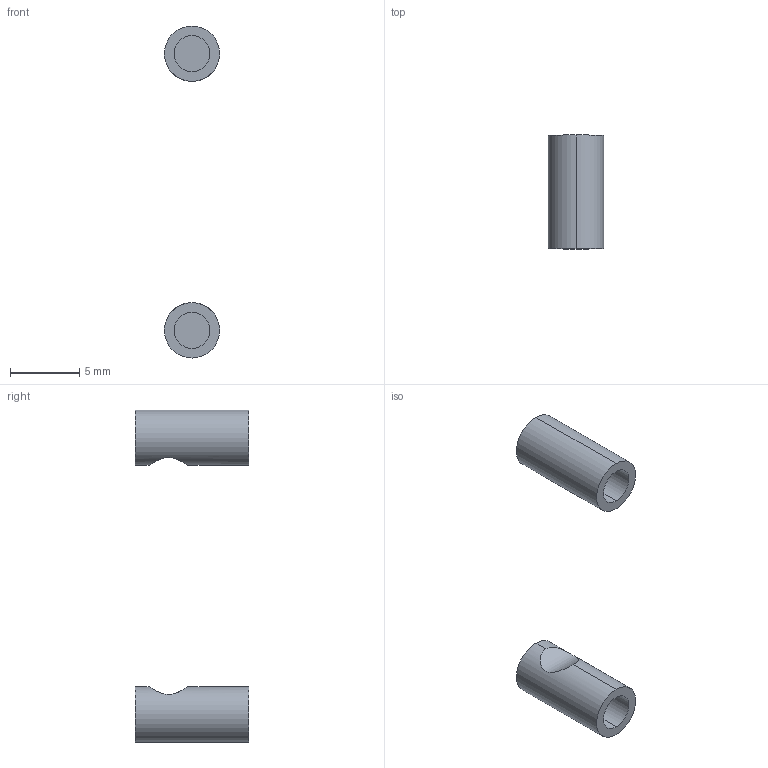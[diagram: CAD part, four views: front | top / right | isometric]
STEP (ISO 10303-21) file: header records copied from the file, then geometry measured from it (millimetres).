
FILE_DESCRIPTION (( 'STEP AP203' ), '1' );
FILE_NAME ('FX-SV1.STEP', '2005-09-05T06:47:31', ( '' ), ( '' ), 'SwSTEP 2.0', 'SolidWorks 2004073', '' );
FILE_SCHEMA (( 'CONFIG_CONTROL_DESIGN' ));
Length unit declared in the file: millimetre
Products named in the file (3): FX-SV1; FX-SV1P_蹬怮椔; FX-SV1D_蹬怮椔
Assembly tree (2 placements, depth 2):
  FX-SV1
    FX-SV1D_蹬怮椔
    FX-SV1P_蹬怮椔
Bounding box: 4 x 8.2 x 24 mm (x, y, z)
Volume: 167.5 mm3; surface area: 310.3 mm2
Topology: 2 solids, 2 shells, 16 faces, 30 edges, 20 vertices
Faces by surface type: cylinder 8, plane 6, bspline 2
Entity records: 927 total; most frequent: CARTESIAN_POINT 297, DIRECTION 80, ORIENTED_EDGE 60, AXIS2_PLACEMENT_3D 35, EDGE_CURVE 30, PERSON_AND_ORGANIZATION 26, VERTEX_POINT 20, DATE_AND_TIME 19
